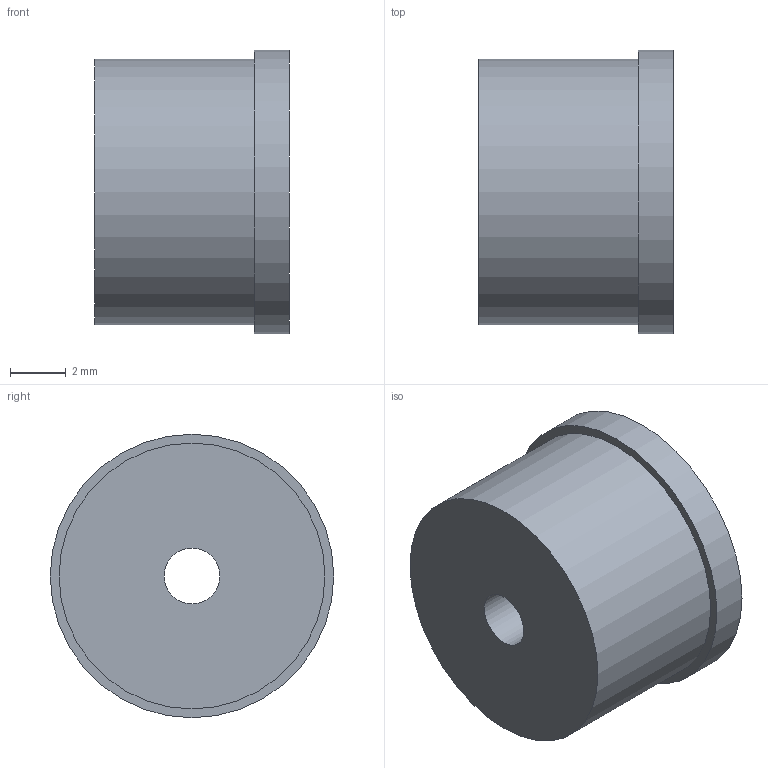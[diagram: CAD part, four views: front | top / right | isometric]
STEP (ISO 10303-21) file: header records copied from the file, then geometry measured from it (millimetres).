
FILE_DESCRIPTION(('Open CASCADE Model'),'2;1');
FILE_NAME('Open CASCADE Shape Model','2026-09-09T10:24:07',('Author'),( 'Open CASCADE'),'Open CASCADE STEP processor 7.8','Open CASCADE 7.8' ,'Unknown');
FILE_SCHEMA(('AUTOMOTIVE_DESIGN { 1 0 10303 214 1 1 1 1 }'));
Length unit declared in the file: millimetre
Products named in the file (1): Open CASCADE STEP translator 7.8 16
Bounding box: 6.99 x 10.16 x 10.16 mm (x, y, z)
Volume: 488.2 mm3; surface area: 411.3 mm2
Topology: 1 solids, 1 shells, 6 faces, 9 edges, 6 vertices
Faces by surface type: cylinder 3, plane 3
Full cylindrical faces by diameter (mm): 2 x1, 9.525 x1, 10.16 x1
Entity records: 270 total; most frequent: DIRECTION 47, CARTESIAN_POINT 40, ORIENTED_EDGE 18, PCURVE 18, DEFINITIONAL_REPRESENTATION 18, LINE 15, VECTOR 15, AXIS2_PLACEMENT_3D 13
